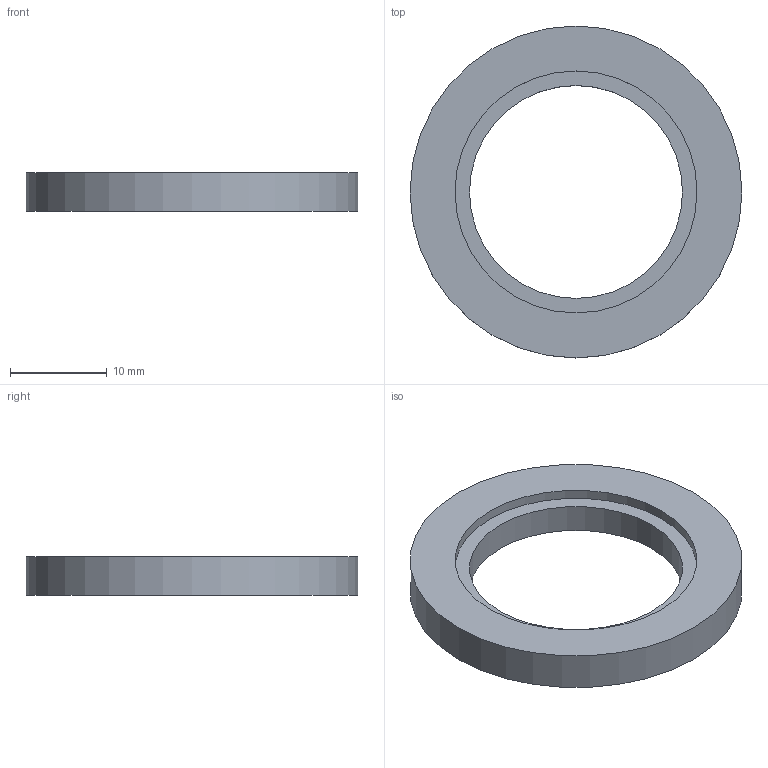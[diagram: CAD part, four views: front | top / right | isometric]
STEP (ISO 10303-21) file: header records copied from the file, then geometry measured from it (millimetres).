
FILE_DESCRIPTION(('Open CASCADE Model'),'2;1');
FILE_NAME('Open CASCADE Shape Model','2026-10-02T15:58:28',('Author'),( 'Open CASCADE'),'Open CASCADE STEP processor 8.0','build123d', 'Unknown');
FILE_SCHEMA(('AUTOMOTIVE_DESIGN { 1 0 10303 214 1 1 1 1 }'));
Length unit declared in the file: millimetre
Products named in the file (1): COMPOUND
Bounding box: 34.3 x 34.3 x 4 mm (x, y, z)
Volume: 2064.8 mm3; surface area: 1804.7 mm2
Topology: 1 solids, 1 shells, 6 faces, 9 edges, 6 vertices
Faces by surface type: cylinder 3, plane 3
Full cylindrical faces by diameter (mm): 22 x1, 25 x1, 34.3 x1
Entity records: 270 total; most frequent: DIRECTION 47, CARTESIAN_POINT 40, ORIENTED_EDGE 18, PCURVE 18, DEFINITIONAL_REPRESENTATION 18, LINE 15, VECTOR 15, AXIS2_PLACEMENT_3D 13
